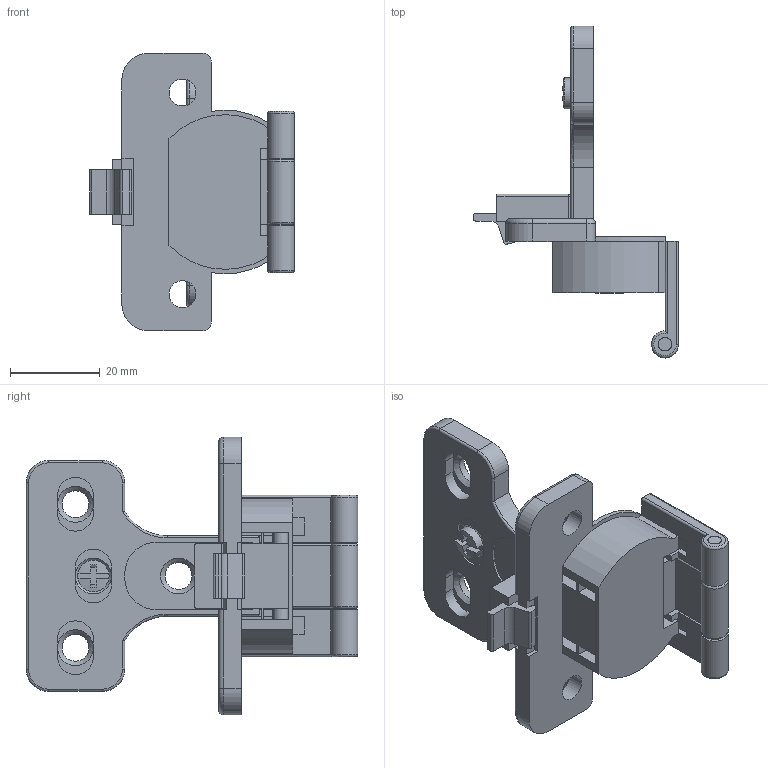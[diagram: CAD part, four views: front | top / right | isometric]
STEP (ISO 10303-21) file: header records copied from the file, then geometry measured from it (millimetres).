
FILE_DESCRIPTION(/* description */ (''),/* implementation_level */ '2;1');
FILE_NAME(/* name */ 'W:\R&D\pub\Katalog techniczny\zawiasy GTV_bryły 3D\ZP-KT0270-BE.stp',/* time_stamp */ '2016-12-01T08:24:38+01:00',/* author */ ('tomaszw'),/* organization */ (''),/* preprocessor_version */ 'ST-DEVELOPER v16.1',/* originating_system */ 'Autodesk Inventor 2016',/* authorisation */ '');
FILE_SCHEMA (('AUTOMOTIVE_DESIGN { 1 0 10303 214 3 1 1 }'));
Length unit declared in the file: millimetre
Products named in the file (6): ZP-KT0(7)_1; ZP-KT0; ZP-KT0(7)_3; ZP-KT0(7)_2; WkretR; ZP-KT0(7)270-BE
Assembly tree (5 placements, depth 2):
  ZP-KT0(7)270-BE
    ZP-KT0(7)_1
    ZP-KT0
    ZP-KT0(7)_3
    ZP-KT0(7)_2
    WkretR
Bounding box: 45.72 x 74 x 62 mm (x, y, z)
Volume: 24815.2 mm3; surface area: 16910.6 mm2
Topology: 5 solids, 5 shells, 230 faces, 600 edges, 380 vertices
Faces by surface type: plane 124, cylinder 78, torus 12, cone 8, sphere 6, bspline 2
Full cylindrical faces by diameter (mm): 3 x4, 3.5 x2, 4 x1, 5 x1, 6 x6, 7 x1
Entity records: 7141 total; most frequent: CARTESIAN_POINT 1268, DIRECTION 1223, ORIENTED_EDGE 1132, EDGE_CURVE 566, AXIS2_PLACEMENT_3D 424, LINE 375, VECTOR 375, VERTEX_POINT 369
